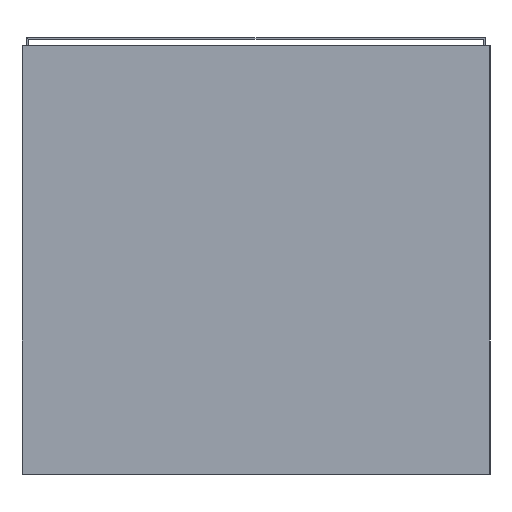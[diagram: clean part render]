
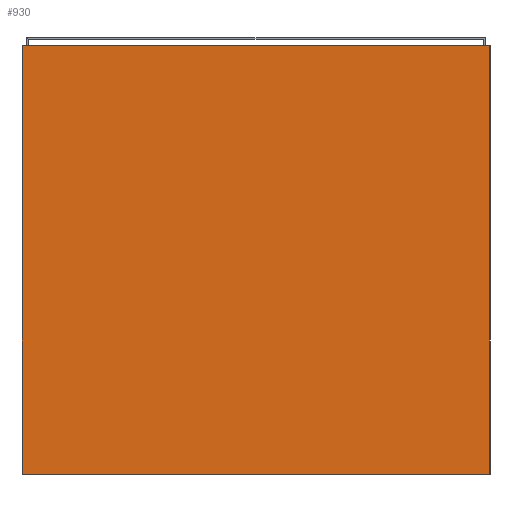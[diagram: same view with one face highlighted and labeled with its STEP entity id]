
A CAD part, left-side view. The second image highlights one B-rep face of the part: STEP entity #930.
In plain terms, the highlighted planar face has unit normal (-1, 0, 0).
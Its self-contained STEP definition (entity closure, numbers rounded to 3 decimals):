
#796=CARTESIAN_POINT('',(-0.546,-0.305,0.0));
#795=VERTEX_POINT('',#796);
#814=CARTESIAN_POINT('',(-0.546,-0.305,0.559));
#813=VERTEX_POINT('',#814);
#822=EDGE_CURVE('',#795,#813,#827,.T.);
#827=LINE('',#796,#829);
#829=VECTOR('',#830,0.559);
#830=DIRECTION('',(0.0,0.0,1.0));
#892=CARTESIAN_POINT('',(-0.546,0.305,0.0));
#891=VERTEX_POINT('',#892);
#902=CARTESIAN_POINT('',(-0.546,0.305,0.559));
#901=VERTEX_POINT('',#902);
#900=EDGE_CURVE('',#901,#891,#905,.T.);
#905=LINE('',#902,#907);
#907=VECTOR('',#908,0.559);
#908=DIRECTION('',(0.0,0.0,-1.0));
#930=ADVANCED_FACE('',(#936),#931,.T.);
#931=PLANE('',#932);
#932=AXIS2_PLACEMENT_3D('',#933,#934,#935);
#933=CARTESIAN_POINT('',(-0.546,0.305,0.0));
#934=DIRECTION('',(-1.0,0.0,0.0));
#935=DIRECTION('',(0.,0.,1.));
#936=FACE_OUTER_BOUND('',#937,.T.);
#937=EDGE_LOOP('',(#938,#948,#958,#968));
#939=EDGE_CURVE('',#795,#891,#944,.T.);
#944=LINE('',#796,#946);
#946=VECTOR('',#947,0.61);
#947=DIRECTION('',(0.0,1.0,0.0));
#938=ORIENTED_EDGE('',*,*,#939,.F.);
#948=ORIENTED_EDGE('',*,*,#822,.T.);
#959=EDGE_CURVE('',#901,#813,#964,.T.);
#964=LINE('',#902,#966);
#966=VECTOR('',#967,0.61);
#967=DIRECTION('',(0.0,-1.0,0.0));
#958=ORIENTED_EDGE('',*,*,#959,.F.);
#968=ORIENTED_EDGE('',*,*,#900,.T.);
